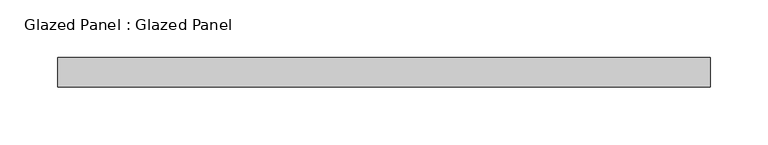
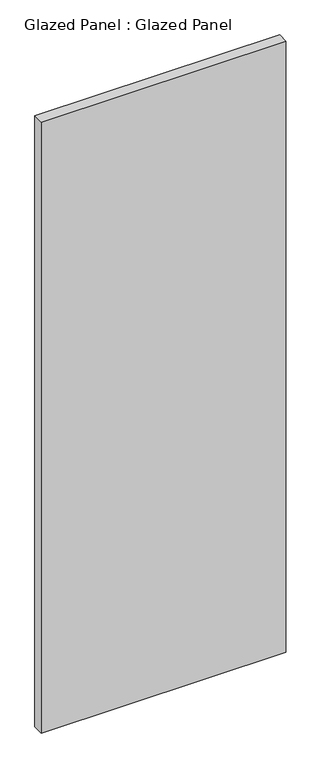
"""IFC4 building model written with IfcOpenShell, lengths in millimetres: plate geometry, Glazed Panel : Glazed Panel."""

import ifcopenshell
import ifcopenshell.guid

model = None  # the IFC model being written
_history = None  # IfcOwnerHistory: only IFC2X3 demands one
_inside = {}  # id of a spatial element -> (the spatial element, [elements in it])
_under = {}  # id of a project, library or spatial element -> (it, [spatial elements below it])
_declared = {}  # id of a project -> (the project, [libraries it declares])
_typed = {}  # id of a type object -> (the type object, [elements of that type])
_made_of = {}  # id of a material, layer set ... -> (it, [elements and type objects made of it])


def new_model(schema):
    """Start an empty IFC model of exactly this schema.

    Asked for "IFC4X3", IfcOpenShell would pick the latest addendum, in which some entities
    have other attributes; the version numbers below select the first issue.
    IFC2X3 requires an IfcOwnerHistory on every rooted entity: one is made here for all.
    """
    global model, _history
    if schema == "IFC4X3":
        model = ifcopenshell.file(schema_version=(4, 3, 0, 0))
    else:
        model = ifcopenshell.file(schema=schema)
    _inside.clear()
    _under.clear()
    _declared.clear()
    _typed.clear()
    _made_of.clear()
    _history = None
    if model.schema == "IFC2X3":
        org = make("IfcOrganization", Name="unknown")
        user = make(
            "IfcPersonAndOrganization",
            ThePerson=make("IfcPerson", FamilyName="unknown"),
            TheOrganization=org,
        )
        app = make(
            "IfcApplication",
            ApplicationDeveloper=org,
            Version="unknown",
            ApplicationFullName="unknown",
            ApplicationIdentifier="unknown",
        )
        _history = make(
            "IfcOwnerHistory",
            OwningUser=user,
            OwningApplication=app,
            ChangeAction="ADDED",
            CreationDate=0,
        )
    return model


def make(cls, **values):
    """One entity of the class cls with the attributes given. An attribute that is None is left unset."""
    return model.create_entity(
        cls, **{name: value for name, value in values.items() if value is not None}
    )


def rooted(cls, **values):
    """An entity with a GlobalId (a new one), such as an element, a storey or a relation."""
    return make(cls, GlobalId=ifcopenshell.guid.new(), OwnerHistory=_history, **values)


def si_unit(unit_type, name, prefix=None):
    """IfcSIUnit, for example si_unit("LENGTHUNIT", "METRE", prefix="MILLI")."""
    return make("IfcSIUnit", UnitType=unit_type, Prefix=prefix, Name=name)


def assignment(units):
    """IfcUnitAssignment: the units of a project."""
    return None if units is None else make("IfcUnitAssignment", Units=units)


def point(xyz):
    """IfcCartesianPoint."""
    return None if xyz is None else make("IfcCartesianPoint", Coordinates=xyz)


def direction(xyz):
    """IfcDirection."""
    return None if xyz is None else make("IfcDirection", DirectionRatios=xyz)


def frame(location, z_axis=None, x_axis=None):
    """IfcAxis2Placement3D, a coordinate frame: its origin and axes. An axis left out is left unset."""
    return make(
        "IfcAxis2Placement3D",
        Location=point(location),
        Axis=direction(z_axis),
        RefDirection=direction(x_axis),
    )


def origin():
    """The frame at (0, 0, 0) with its axes left unset."""
    return frame((0.0, 0.0, 0.0))


def origin_with_axes():
    """The frame at (0, 0, 0) with the z axis (0, 0, 1) and the x axis (1, 0, 0) written out."""
    return frame((0.0, 0.0, 0.0), z_axis=(0.0, 0.0, 1.0), x_axis=(1.0, 0.0, 0.0))


def place(relative_to, where):
    """IfcLocalPlacement: puts the frame where relative to a parent placement (None: the world)."""
    return make(
        "IfcLocalPlacement", PlacementRelTo=relative_to, RelativePlacement=where
    )


def context(
    kind, dimensions, precision=None, world=None, true_north=None, identifier=None
):
    """IfcGeometricRepresentationContext, for example the 3D "Model" context."""
    return make(
        "IfcGeometricRepresentationContext",
        ContextIdentifier=identifier,
        ContextType=kind,
        CoordinateSpaceDimension=dimensions,
        Precision=precision,
        WorldCoordinateSystem=world,
        TrueNorth=true_north,
    )


def project(units=None, contexts=None):
    """IfcProject with its units and contexts."""
    return rooted(
        "IfcProject",
        Name="project",
        RepresentationContexts=contexts,
        UnitsInContext=assignment(units),
    )


def spatial(cls, under=None, at=None, **own):
    """A site, building, storey or space (cls), placed at a placement, below another one or the project."""
    s = rooted(cls, ObjectPlacement=at, **own)
    if under is not None:
        _under.setdefault(under.id(), (under, []))[1].append(s)
    return s


def polyline(points):
    """IfcPolyline through the points."""
    return make("IfcPolyline", Points=[point(p) for p in points])


def outline(outer, holes=None, kind="AREA"):
    """IfcArbitraryClosedProfileDef: a profile drawn as a closed curve; with holes, ...WithVoids."""
    if holes is None:
        return make("IfcArbitraryClosedProfileDef", ProfileType=kind, OuterCurve=outer)
    return make(
        "IfcArbitraryProfileDefWithVoids",
        ProfileType=kind,
        OuterCurve=outer,
        InnerCurves=holes,
    )


def extrude(swept, where, along, depth):
    """IfcExtrudedAreaSolid: the profile swept, set in the frame where, extruded along a direction by depth."""
    return make(
        "IfcExtrudedAreaSolid",
        SweptArea=swept,
        Position=where,
        ExtrudedDirection=direction(along),
        Depth=depth,
    )


def shape(context_of_items, identifier, shape_type, items):
    """IfcShapeRepresentation: the items that make up one representation, for example the "Body"."""
    return make(
        "IfcShapeRepresentation",
        ContextOfItems=context_of_items,
        RepresentationIdentifier=identifier,
        RepresentationType=shape_type,
        Items=items,
    )


def source(mapping_origin, context_of_items, identifier, shape_type, items):
    """IfcRepresentationMap: a shape defined once, which mapped items show again and again."""
    return make(
        "IfcRepresentationMap",
        MappingOrigin=mapping_origin,
        MappedRepresentation=shape(context_of_items, identifier, shape_type, items),
    )


def transform(
    local_origin,
    x_axis=None,
    y_axis=None,
    z_axis=None,
    scale=None,
    scale2=None,
    scale3=None,
    uniform=True,
):
    """IfcCartesianTransformationOperator3D, or its non-uniform kind. x_axis, y_axis, z_axis: its Axis1, 2, 3."""
    if uniform:
        return make(
            "IfcCartesianTransformationOperator3D",
            Axis1=direction(x_axis),
            Axis2=direction(y_axis),
            LocalOrigin=point(local_origin),
            Scale=scale,
            Axis3=direction(z_axis),
        )
    return make(
        "IfcCartesianTransformationOperator3DnonUniform",
        Axis1=direction(x_axis),
        Axis2=direction(y_axis),
        LocalOrigin=point(local_origin),
        Scale=scale,
        Axis3=direction(z_axis),
        Scale2=scale2,
        Scale3=scale3,
    )


def mapped(mapping_source, mapping_target):
    """IfcMappedItem: shows the shape of a source again, moved by a transform."""
    return make(
        "IfcMappedItem", MappingSource=mapping_source, MappingTarget=mapping_target
    )


def made_of(thing, what):
    """Note that an element or type object is made of a material, layer set ...; save() writes the relation."""
    if what is not None:
        _made_of.setdefault(what.id(), (what, []))[1].append(thing)
    return thing


def element(
    cls,
    number,
    at=None,
    inside=None,
    cuts=None,
    type_object=None,
    material=None,
    context=None,
    identifier="Body",
    shape_type=None,
    held_by="IfcProductDefinitionShape",
    body=None,
    shapes=None,
    **own,
):
    """One element of the class cls, such as IfcWall. Its Tag is "e" and its number.

    at: its placement. inside: the storey or other place that contains it. cuts: it is an
    opening in that element (IfcRelVoidsElement). A single representation is given by context,
    identifier, shape_type and body (its items); several are given by shapes. held_by: the class
    of the entity that holds the representations. save() writes the other relations.
    """
    e = rooted(cls, Tag="e%d" % number, ObjectPlacement=at, **own)
    if body is not None:
        shapes = [shape(context, identifier, shape_type, body)]
    if shapes is not None:
        e.Representation = make(held_by, Representations=shapes)
    if inside is not None:
        _inside.setdefault(inside.id(), (inside, []))[1].append(e)
    if cuts is not None:
        rooted(
            "IfcRelVoidsElement", RelatingBuildingElement=cuts, RelatedOpeningElement=e
        )
    if type_object is not None:
        _typed.setdefault(type_object.id(), (type_object, []))[1].append(e)
    return made_of(e, material)


def aggregate(whole, parts):
    """IfcRelAggregates: a whole, such as a stair, and the parts it consists of."""
    return rooted("IfcRelAggregates", RelatingObject=whole, RelatedObjects=parts)


def save(model, path):
    """Write the relations noted so far, then the file.

    IfcRelAggregates (storeys below a building ...), IfcRelContainedInSpatialStructure (elements
    in a storey), IfcRelDefinesByType, IfcRelAssociatesMaterial and IfcRelDeclares: one each for
    every whole, place, type object, material and project.
    """
    for whole, parts in _under.values():
        aggregate(whole, parts)
    for where, things in _inside.values():
        rooted(
            "IfcRelContainedInSpatialStructure",
            RelatedElements=things,
            RelatingStructure=where,
        )
    for kind, things in _typed.values():
        rooted("IfcRelDefinesByType", RelatedObjects=things, RelatingType=kind)
    for what, things in _made_of.values():
        rooted("IfcRelAssociatesMaterial", RelatedObjects=things, RelatingMaterial=what)
    for by, libraries in _declared.values():
        rooted("IfcRelDeclares", RelatingContext=by, RelatedDefinitions=libraries)
    model.write(path)


def glazed_panel_glazed_panel_bd68a80f(model_context):
    return source(origin(), model_context, "Body", "SweptSolid", [
        extrude(outline(polyline([(282.575, 38.1), (-282.575, 38.1), (-282.575, 63.5), (282.575, 63.5), (282.575, 38.1)])), origin_with_axes(), (0.0, 0.0, 1.0), 1492.25),
    ])


if __name__ == "__main__":
    model = new_model("IFC4")
    model_context = context("Model", 3, world=origin())
    ifc_project = project(units=[si_unit("LENGTHUNIT", "METRE", prefix="MILLI")], contexts=[model_context])
    site = spatial("IfcSite", under=ifc_project)
    building = spatial("IfcBuilding", under=site)
    placement = place(None, origin())
    glazed_panel_glazed_panel_shape = glazed_panel_glazed_panel_bd68a80f(model_context)
    element("IfcPlate", 1, ObjectType="Glazed Panel : Glazed Panel", at=placement, inside=building, context=model_context, shape_type="MappedRepresentation", body=[
        mapped(glazed_panel_glazed_panel_shape, transform((0.0, 0.0, 0.0), x_axis=(1.0, 0.0, 0.0), y_axis=(0.0, 1.0, 0.0), z_axis=(0.0, 0.0, 1.0))),
    ])
    save(model, "model.ifc")
